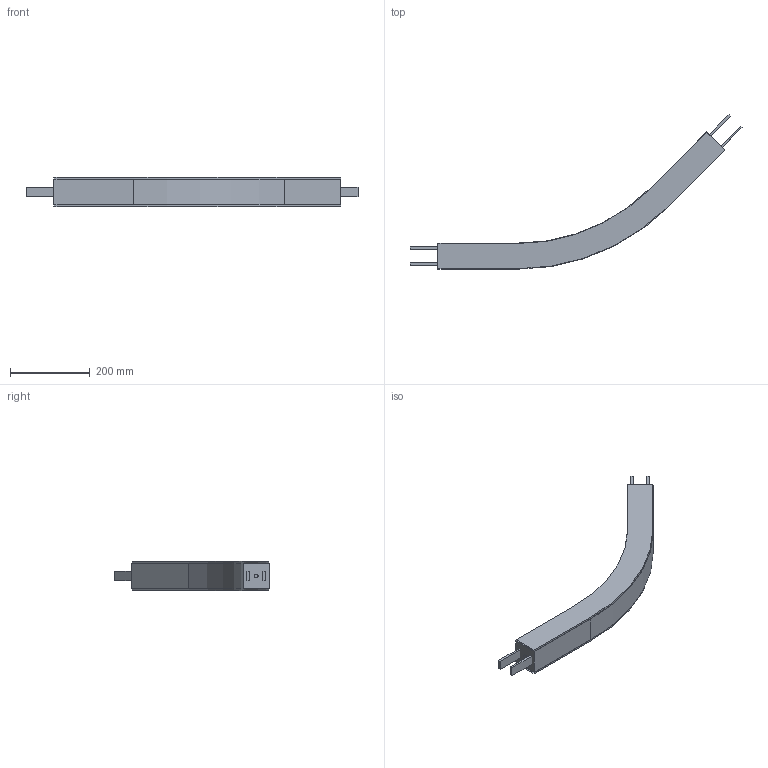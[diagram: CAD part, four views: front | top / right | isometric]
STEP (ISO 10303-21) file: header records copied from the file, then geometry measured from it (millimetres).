
FILE_DESCRIPTION(/* description */ ('Horizontaler Gleitbogen, 45°, R500'),/* implementation_level */ '2;1');
FILE_NAME(/* name */ 'T:\vdz0\Step Daten Website\modulflex FL-System\Horizontale Gleitbögen\FLBP 45R500_43642.stp',/* time_stamp */ '2024-09-03T09:39:35+02:00',/* author */ ('lzb0'),/* organization */ ('modular automation GmbH'),/* preprocessor_version */ 'ST-DEVELOPER v18.1',/* originating_system */ 'Autodesk Inventor 2021',/* authorisation */ '');
FILE_SCHEMA (('AUTOMOTIVE_DESIGN { 1 0 10303 214 3 1 1 }'));
Length unit declared in the file: millimetre
Products named in the file (1): FLBP 45R500
Bounding box: 830.74 x 386.13 x 73 mm (x, y, z)
Volume: 3381628.2 mm3; surface area: 463413.4 mm2
Topology: 5 solids, 9 shells, 52 faces, 126 edges, 84 vertices
Faces by surface type: plane 44, cylinder 8
Full cylindrical faces by diameter (mm): 10 x2
Entity records: 1596 total; most frequent: CARTESIAN_POINT 270, DIRECTION 250, ORIENTED_EDGE 232, EDGE_CURVE 126, LINE 110, VECTOR 110, VERTEX_POINT 84, AXIS2_PLACEMENT_3D 70
